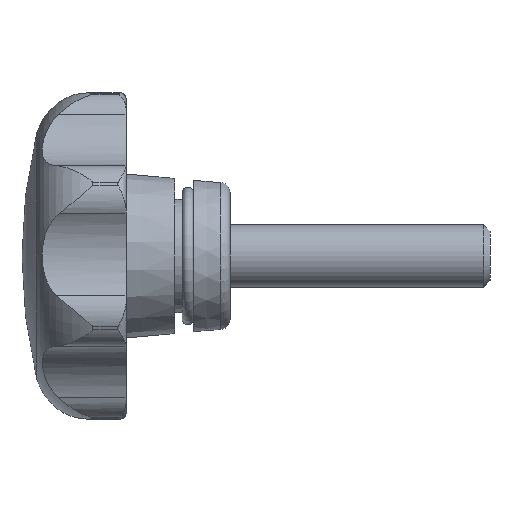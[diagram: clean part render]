
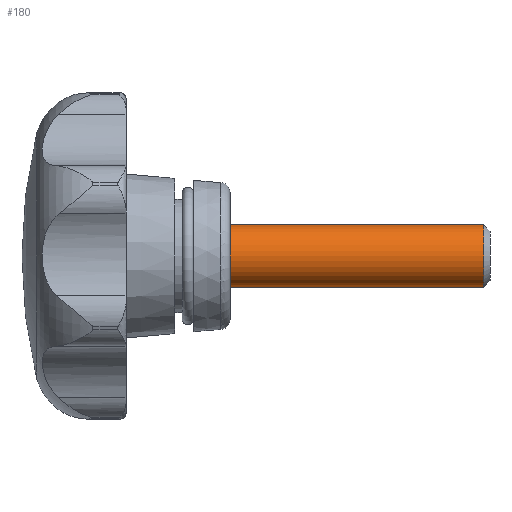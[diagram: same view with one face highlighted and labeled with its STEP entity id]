
A CAD part, left-side view. The second image highlights one B-rep face of the part: STEP entity #180.
In plain terms, the highlighted cylindrical face has radius 3 mm (diameter 6 mm), a full revolution.
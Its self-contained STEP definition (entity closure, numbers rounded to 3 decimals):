
#180 = ADVANCED_FACE( '', ( #345, #346 ), #347, .T. );
#345 = FACE_OUTER_BOUND( '', #675, .T. );
#346 = FACE_OUTER_BOUND( '', #676, .T. );
#347 = CYLINDRICAL_SURFACE( '', #677, 3. );
#675 = EDGE_LOOP( '', ( #1036 ) );
#676 = EDGE_LOOP( '', ( #1037 ) );
#677 = AXIS2_PLACEMENT_3D( '', #1038, #1039, #1040 );
#1036 = ORIENTED_EDGE( '', *, *, #2051, .F. );
#1037 = ORIENTED_EDGE( '', *, *, #2052, .T. );
#1038 = CARTESIAN_POINT( '', ( 0., -25., 0. ) );
#1039 = DIRECTION( '', ( 0., 1., 0. ) );
#1040 = DIRECTION( '', ( 0., 0., -1. ) );
#2051 = EDGE_CURVE( '', #2398, #2398, #2399, .T. );
#2052 = EDGE_CURVE( '', #2400, #2400, #2401, .T. );
#2398 = VERTEX_POINT( '', #3057 );
#2399 = CIRCLE( '', #3058, 3. );
#2400 = VERTEX_POINT( '', #3059 );
#2401 = CIRCLE( '', #3060, 3. );
#3057 = CARTESIAN_POINT( '', ( 0., -24.387, -3. ) );
#3058 = AXIS2_PLACEMENT_3D( '', #4699, #4700, #4701 );
#3059 = CARTESIAN_POINT( '', ( 0., 0., -3. ) );
#3060 = AXIS2_PLACEMENT_3D( '', #4702, #4703, #4704 );
#4699 = CARTESIAN_POINT( '', ( 0., -24.387, 0. ) );
#4700 = DIRECTION( '', ( 0., -1., 0. ) );
#4701 = DIRECTION( '', ( 0., 0., -1. ) );
#4702 = CARTESIAN_POINT( '', ( 0., 0., 0. ) );
#4703 = DIRECTION( '', ( 0., -1., 0. ) );
#4704 = DIRECTION( '', ( 0., 0., -1. ) );
